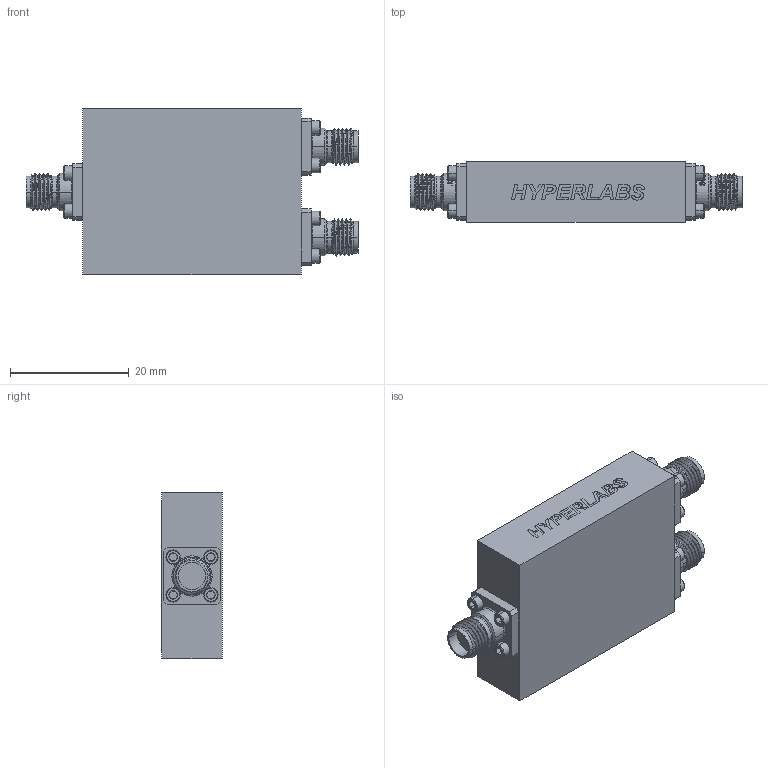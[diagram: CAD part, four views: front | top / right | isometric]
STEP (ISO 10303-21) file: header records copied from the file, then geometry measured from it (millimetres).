
FILE_DESCRIPTION (( 'STEP AP214' ), '1' );
FILE_NAME ('HL9401-JJJ.STEP', '2023-03-04T23:18:29', ( '' ), ( '' ), 'SwSTEP 2.0', 'SolidWorks 2023', '' );
FILE_SCHEMA (( 'AUTOMOTIVE_DESIGN' ));
Length unit declared in the file: inch
Products named in the file (6): 0-80x1-8_Socket Head Cap Screw_92196A052_18-8 Stainless Steel Socket Head Screw_92196A052; 100205_5; 100204_6; SMA J 4H .375SQ; HL9401-JJJ; 0-80x3-16_flathead_phillips
Assembly tree (20 placements, depth 2):
  HL9401-JJJ
    100205_5
    100204_6
    0-80x3-16_flathead_phillips  x3
    SMA J 4H .375SQ  x3
    0-80x1-8_Socket Head Cap Screw_92196A052_18-8 Stainless Steel Socket Head Screw_92196A052  x12
Bounding box: 55.88 x 10.16 x 27.94 mm (x, y, z)
Volume: 7386.1 mm3; surface area: 8269.3 mm2
Topology: 20 solids, 20 shells, 1893 faces, 4842 edges, 3111 vertices
Faces by surface type: plane 813, cylinder 466, bspline 296, cone 276, torus 42
Entity records: 46042 total; most frequent: CARTESIAN_POINT 19987, ORIENTED_EDGE 5226, DIRECTION 3833, EDGE_CURVE 2613, VERTEX_POINT 1716, LINE 1657, VECTOR 1657, EDGE_LOOP 1119
